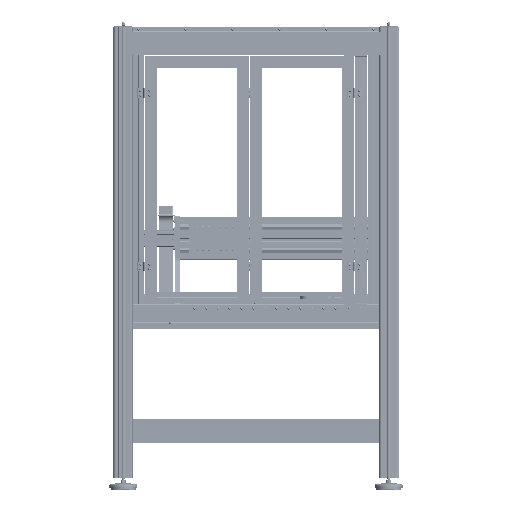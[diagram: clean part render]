
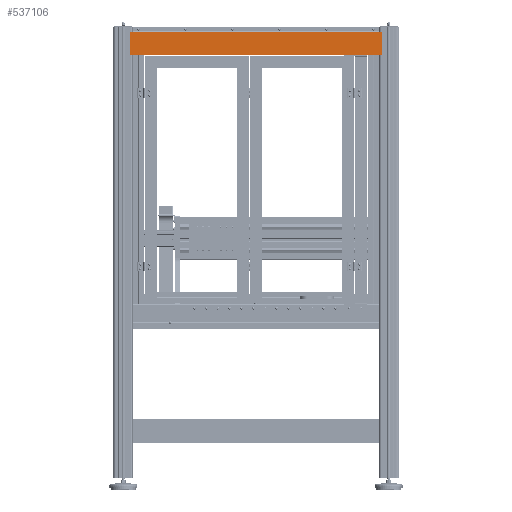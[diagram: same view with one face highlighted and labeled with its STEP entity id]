
A CAD part, top view. The second image highlights one B-rep face of the part: STEP entity #537106.
In plain terms, the highlighted planar face has unit normal (0, 0, 1).
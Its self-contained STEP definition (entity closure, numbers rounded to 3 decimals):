
#25177 = EDGE_CURVE ( 'NONE', #216831, #401287, #314380, .T. ) ;
#27253 = VECTOR ( 'NONE', #371876, 1000. ) ;
#27631 = CARTESIAN_POINT ( 'NONE',  ( 524., 1165.9, 600.499 ) ) ;
#31658 = PLANE ( 'NONE',  #447319 ) ;
#33679 = DIRECTION ( 'NONE',  ( 1., 0., 0. ) ) ;
#44182 = CARTESIAN_POINT ( 'NONE',  ( -534., 1165.9, 600.499 ) ) ;
#67783 = VERTEX_POINT ( 'NONE', #527648 ) ;
#82557 = VECTOR ( 'NONE', #165578, 1000. ) ;
#87570 = CARTESIAN_POINT ( 'NONE',  ( -524., 1069.6, 600.499 ) ) ;
#98268 = ORIENTED_EDGE ( 'NONE', *, *, #229112, .F. ) ;
#101934 = ORIENTED_EDGE ( 'NONE', *, *, #548738, .T. ) ;
#103569 = ORIENTED_EDGE ( 'NONE', *, *, #231533, .T. ) ;
#137978 = LINE ( 'NONE', #202739, #263867 ) ;
#139177 = DIRECTION ( 'NONE',  ( 1., 0., 0. ) ) ;
#154008 = EDGE_LOOP ( 'NONE', ( #101934, #237924, #103569, #600215, #98268, #412334, #577604, #228175 ) ) ;
#154799 = DIRECTION ( 'NONE',  ( 0., 1., 0. ) ) ;
#157607 = VECTOR ( 'NONE', #231286, 1000. ) ;
#165578 = DIRECTION ( 'NONE',  ( 0., -1., 0. ) ) ;
#168089 = LINE ( 'NONE', #324137, #27253 ) ;
#171080 = VERTEX_POINT ( 'NONE', #271828 ) ;
#185095 = VERTEX_POINT ( 'NONE', #44182 ) ;
#202111 = EDGE_CURVE ( 'NONE', #67783, #171080, #168089, .T. ) ;
#202739 = CARTESIAN_POINT ( 'NONE',  ( -524., 1069.6, 600.499 ) ) ;
#204349 = VERTEX_POINT ( 'NONE', #371698 ) ;
#216831 = VERTEX_POINT ( 'NONE', #418557 ) ;
#222052 = CARTESIAN_POINT ( 'NONE',  ( 524., 1066.5, 600.499 ) ) ;
#228175 = ORIENTED_EDGE ( 'NONE', *, *, #25177, .T. ) ;
#229112 = EDGE_CURVE ( 'NONE', #204349, #580188, #283477, .T. ) ;
#231286 = DIRECTION ( 'NONE',  ( 1., 0., 0. ) ) ;
#231533 = EDGE_CURVE ( 'NONE', #171080, #385146, #540768, .T. ) ;
#236737 = VECTOR ( 'NONE', #313384, 1000. ) ;
#237924 = ORIENTED_EDGE ( 'NONE', *, *, #202111, .T. ) ;
#247273 = EDGE_CURVE ( 'NONE', #204349, #185095, #377627, .T. ) ;
#260676 = CARTESIAN_POINT ( 'NONE',  ( -534., 1069.6, 600.499 ) ) ;
#263867 = VECTOR ( 'NONE', #486385, 1000. ) ;
#265799 = CARTESIAN_POINT ( 'NONE',  ( -524., 1165.9, 600.499 ) ) ;
#271828 = CARTESIAN_POINT ( 'NONE',  ( 534., 1069.6, 600.499 ) ) ;
#283477 = LINE ( 'NONE', #417804, #157607 ) ;
#313225 = DIRECTION ( 'NONE',  ( -1., 0., 0. ) ) ;
#313384 = DIRECTION ( 'NONE',  ( -1., 0., 0. ) ) ;
#314380 = LINE ( 'NONE', #87570, #566105 ) ;
#317236 = DIRECTION ( 'NONE',  ( 0., 0., -1. ) ) ;
#324137 = CARTESIAN_POINT ( 'NONE',  ( 524., 1069.6, 600.499 ) ) ;
#343309 = EDGE_CURVE ( 'NONE', #185095, #216831, #460285, .T. ) ;
#371698 = CARTESIAN_POINT ( 'NONE',  ( -524., 1165.9, 600.499 ) ) ;
#371876 = DIRECTION ( 'NONE',  ( 1., 0., 0. ) ) ;
#377627 = LINE ( 'NONE', #265799, #236737 ) ;
#385146 = VERTEX_POINT ( 'NONE', #592575 ) ;
#386980 = CARTESIAN_POINT ( 'NONE',  ( 524., 1165.9, 600.499 ) ) ;
#387405 = VECTOR ( 'NONE', #313225, 1000. ) ;
#401287 = VERTEX_POINT ( 'NONE', #441924 ) ;
#412334 = ORIENTED_EDGE ( 'NONE', *, *, #247273, .T. ) ;
#417804 = CARTESIAN_POINT ( 'NONE',  ( 524., 1165.9, 600.499 ) ) ;
#418557 = CARTESIAN_POINT ( 'NONE',  ( -534., 1069.6, 600.499 ) ) ;
#441924 = CARTESIAN_POINT ( 'NONE',  ( -524., 1069.6, 600.499 ) ) ;
#447319 = AXIS2_PLACEMENT_3D ( 'NONE', #222052, #317236, #33679 ) ;
#460285 = LINE ( 'NONE', #260676, #82557 ) ;
#480750 = EDGE_CURVE ( 'NONE', #385146, #580188, #513227, .T. ) ;
#485923 = CARTESIAN_POINT ( 'NONE',  ( 534., 1069.6, 600.499 ) ) ;
#486385 = DIRECTION ( 'NONE',  ( 1., 0., 0. ) ) ;
#513227 = LINE ( 'NONE', #27631, #387405 ) ;
#525978 = VECTOR ( 'NONE', #154799, 1000. ) ;
#527648 = CARTESIAN_POINT ( 'NONE',  ( 524., 1069.6, 600.499 ) ) ;
#537106 = ADVANCED_FACE ( 'NONE', ( #612187 ), #31658, .F. ) ;
#540768 = LINE ( 'NONE', #485923, #525978 ) ;
#548738 = EDGE_CURVE ( 'NONE', #401287, #67783, #137978, .T. ) ;
#566105 = VECTOR ( 'NONE', #139177, 1000. ) ;
#577604 = ORIENTED_EDGE ( 'NONE', *, *, #343309, .T. ) ;
#580188 = VERTEX_POINT ( 'NONE', #386980 ) ;
#592575 = CARTESIAN_POINT ( 'NONE',  ( 534., 1165.9, 600.499 ) ) ;
#600215 = ORIENTED_EDGE ( 'NONE', *, *, #480750, .T. ) ;
#612187 = FACE_OUTER_BOUND ( 'NONE', #154008, .T. ) ;
